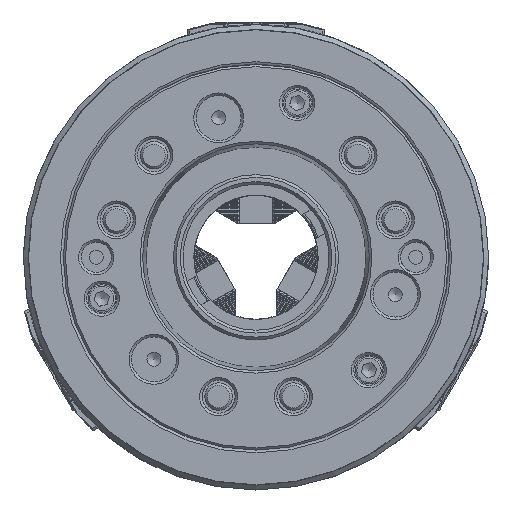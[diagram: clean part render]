
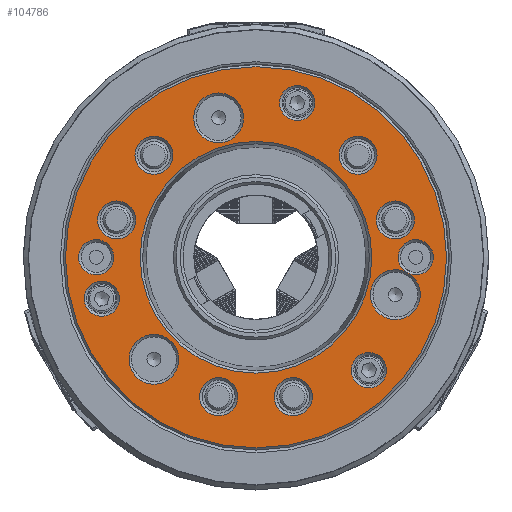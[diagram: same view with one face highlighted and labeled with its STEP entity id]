
A CAD part, front view. The second image highlights one B-rep face of the part: STEP entity #104786.
In plain terms, the highlighted planar face has unit normal (0, -1, 0).
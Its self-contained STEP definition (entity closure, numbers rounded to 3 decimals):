
#29584=PLANE('',#112609);
#30059=FACE_BOUND('',#40533,.T.);
#30060=FACE_BOUND('',#40534,.T.);
#30061=FACE_BOUND('',#40535,.T.);
#30062=FACE_BOUND('',#40536,.T.);
#30063=FACE_BOUND('',#40537,.T.);
#30064=FACE_BOUND('',#40538,.T.);
#30065=FACE_BOUND('',#40539,.T.);
#30066=FACE_BOUND('',#40540,.T.);
#30067=FACE_BOUND('',#40541,.T.);
#30068=FACE_BOUND('',#40542,.T.);
#30069=FACE_BOUND('',#40543,.T.);
#30070=FACE_BOUND('',#40544,.T.);
#30071=FACE_BOUND('',#40545,.T.);
#30072=FACE_BOUND('',#40546,.T.);
#35037=FACE_OUTER_BOUND('',#40532,.T.);
#40532=EDGE_LOOP('',(#98046));
#40533=EDGE_LOOP('',(#98047));
#40534=EDGE_LOOP('',(#98048));
#40535=EDGE_LOOP('',(#98049));
#40536=EDGE_LOOP('',(#98050));
#40537=EDGE_LOOP('',(#98051));
#40538=EDGE_LOOP('',(#98052));
#40539=EDGE_LOOP('',(#98053));
#40540=EDGE_LOOP('',(#98054));
#40541=EDGE_LOOP('',(#98055));
#40542=EDGE_LOOP('',(#98056,#98057));
#40543=EDGE_LOOP('',(#98058));
#40544=EDGE_LOOP('',(#98059));
#40545=EDGE_LOOP('',(#98060));
#40546=EDGE_LOOP('',(#98061));
#41638=CIRCLE('',#112503,6.4);
#41670=CIRCLE('',#112558,42.067);
#41681=CIRCLE('',#112580,69.2);
#41683=CIRCLE('',#112583,6.4);
#41684=CIRCLE('',#112585,9.05);
#41685=CIRCLE('',#112587,9.05);
#41686=CIRCLE('',#112589,6.9);
#41687=CIRCLE('',#112591,6.9);
#41688=CIRCLE('',#112593,6.9);
#41689=CIRCLE('',#112595,6.9);
#41690=CIRCLE('',#112597,6.9);
#41691=CIRCLE('',#112599,6.9);
#41692=CIRCLE('',#112601,6.4);
#41693=CIRCLE('',#112603,6.4);
#41694=CIRCLE('',#112605,6.4);
#41695=CIRCLE('',#112607,9.05);
#51723=VERTEX_POINT('',#176921);
#51724=VERTEX_POINT('',#176922);
#51755=VERTEX_POINT('',#177008);
#51760=VERTEX_POINT('',#177035);
#51762=VERTEX_POINT('',#177040);
#51763=VERTEX_POINT('',#177043);
#51764=VERTEX_POINT('',#177046);
#51765=VERTEX_POINT('',#177049);
#51766=VERTEX_POINT('',#177052);
#51767=VERTEX_POINT('',#177055);
#51768=VERTEX_POINT('',#177058);
#51769=VERTEX_POINT('',#177061);
#51770=VERTEX_POINT('',#177064);
#51771=VERTEX_POINT('',#177067);
#51772=VERTEX_POINT('',#177070);
#51773=VERTEX_POINT('',#177073);
#67200=EDGE_CURVE('',#51723,#51724,#41638,.T.);
#67232=EDGE_CURVE('',#51755,#51755,#41670,.T.);
#67243=EDGE_CURVE('',#51760,#51760,#41681,.T.);
#67245=EDGE_CURVE('',#51762,#51762,#41683,.T.);
#67246=EDGE_CURVE('',#51763,#51763,#41684,.T.);
#67247=EDGE_CURVE('',#51764,#51764,#41685,.T.);
#67248=EDGE_CURVE('',#51765,#51765,#41686,.T.);
#67249=EDGE_CURVE('',#51766,#51766,#41687,.T.);
#67250=EDGE_CURVE('',#51767,#51767,#41688,.T.);
#67251=EDGE_CURVE('',#51768,#51768,#41689,.T.);
#67252=EDGE_CURVE('',#51769,#51769,#41690,.T.);
#67253=EDGE_CURVE('',#51770,#51770,#41691,.T.);
#67254=EDGE_CURVE('',#51771,#51771,#41692,.T.);
#67255=EDGE_CURVE('',#51772,#51772,#41693,.T.);
#67256=EDGE_CURVE('',#51773,#51773,#41694,.T.);
#67257=EDGE_CURVE('',#51724,#51723,#41695,.T.);
#98046=ORIENTED_EDGE('',*,*,#67243,.T.);
#98047=ORIENTED_EDGE('',*,*,#67256,.T.);
#98048=ORIENTED_EDGE('',*,*,#67255,.T.);
#98049=ORIENTED_EDGE('',*,*,#67254,.T.);
#98050=ORIENTED_EDGE('',*,*,#67253,.T.);
#98051=ORIENTED_EDGE('',*,*,#67252,.T.);
#98052=ORIENTED_EDGE('',*,*,#67251,.T.);
#98053=ORIENTED_EDGE('',*,*,#67250,.T.);
#98054=ORIENTED_EDGE('',*,*,#67249,.T.);
#98055=ORIENTED_EDGE('',*,*,#67248,.T.);
#98056=ORIENTED_EDGE('',*,*,#67257,.T.);
#98057=ORIENTED_EDGE('',*,*,#67200,.T.);
#98058=ORIENTED_EDGE('',*,*,#67247,.T.);
#98059=ORIENTED_EDGE('',*,*,#67246,.T.);
#98060=ORIENTED_EDGE('',*,*,#67245,.T.);
#98061=ORIENTED_EDGE('',*,*,#67232,.T.);
#104786=ADVANCED_FACE('',(#35037,#30059,#30060,#30061,#30062,#30063,#30064,
#30065,#30066,#30067,#30068,#30069,#30070,#30071,#30072),#29584,.T.);
#112503=AXIS2_PLACEMENT_3D('',#176923,#139077,#139078);
#112558=AXIS2_PLACEMENT_3D('',#177009,#139187,#139188);
#112580=AXIS2_PLACEMENT_3D('',#177036,#139231,#139232);
#112583=AXIS2_PLACEMENT_3D('',#177041,#139237,#139238);
#112585=AXIS2_PLACEMENT_3D('',#177044,#139241,#139242);
#112587=AXIS2_PLACEMENT_3D('',#177047,#139245,#139246);
#112589=AXIS2_PLACEMENT_3D('',#177050,#139249,#139250);
#112591=AXIS2_PLACEMENT_3D('',#177053,#139253,#139254);
#112593=AXIS2_PLACEMENT_3D('',#177056,#139257,#139258);
#112595=AXIS2_PLACEMENT_3D('',#177059,#139261,#139262);
#112597=AXIS2_PLACEMENT_3D('',#177062,#139265,#139266);
#112599=AXIS2_PLACEMENT_3D('',#177065,#139269,#139270);
#112601=AXIS2_PLACEMENT_3D('',#177068,#139273,#139274);
#112603=AXIS2_PLACEMENT_3D('',#177071,#139277,#139278);
#112605=AXIS2_PLACEMENT_3D('',#177074,#139281,#139282);
#112607=AXIS2_PLACEMENT_3D('',#177076,#139285,#139286);
#112609=AXIS2_PLACEMENT_3D('',#177078,#139289,#139290);
#139077=DIRECTION('center_axis',(0.,1.,0.));
#139078=DIRECTION('ref_axis',(0.,0.,
1.));
#139187=DIRECTION('center_axis',(0.,1.,0.));
#139188=DIRECTION('ref_axis',(0.,0.,
-1.));
#139231=DIRECTION('center_axis',(0.,-1.,0.));
#139232=DIRECTION('ref_axis',(0.,0.,
-1.));
#139237=DIRECTION('center_axis',(0.,1.,0.));
#139238=DIRECTION('ref_axis',(0.,0.,
-1.));
#139241=DIRECTION('center_axis',(0.,1.,0.));
#139242=DIRECTION('ref_axis',(0.,0.,
-1.));
#139245=DIRECTION('center_axis',(0.,1.,0.));
#139246=DIRECTION('ref_axis',(-0.866,0.,
0.5));
#139249=DIRECTION('center_axis',(0.,1.,0.));
#139250=DIRECTION('ref_axis',(0.,0.,
-1.));
#139253=DIRECTION('center_axis',(0.,1.,0.));
#139254=DIRECTION('ref_axis',(0.,0.,
-1.));
#139257=DIRECTION('center_axis',(0.,1.,0.));
#139258=DIRECTION('ref_axis',(-0.866,0.,
0.5));
#139261=DIRECTION('center_axis',(0.,1.,0.));
#139262=DIRECTION('ref_axis',(-0.866,0.,
0.5));
#139265=DIRECTION('center_axis',(0.,1.,0.));
#139266=DIRECTION('ref_axis',(0.866,0.,0.5));
#139269=DIRECTION('center_axis',(0.,1.,0.));
#139270=DIRECTION('ref_axis',(0.866,0.,0.5));
#139273=DIRECTION('center_axis',(0.,1.,0.));
#139274=DIRECTION('ref_axis',(0.,0.,
-1.));
#139277=DIRECTION('center_axis',(0.,1.,0.));
#139278=DIRECTION('ref_axis',(-0.866,0.,
0.5));
#139281=DIRECTION('center_axis',(0.,1.,0.));
#139282=DIRECTION('ref_axis',(0.866,0.,0.5));
#139285=DIRECTION('center_axis',(0.,1.,0.));
#139286=DIRECTION('ref_axis',(0.866,0.,0.5));
#139289=DIRECTION('center_axis',(0.,-1.,0.));
#139290=DIRECTION('ref_axis',(1.,0.,0.));
#176921=CARTESIAN_POINT('',(54.736,-10.,-5.505));
#176922=CARTESIAN_POINT('',(55.147,-10.,-5.729));
#176923=CARTESIAN_POINT('Origin',(58.,-10.,0.));
#177008=CARTESIAN_POINT('',(0.,-10.,42.067));
#177009=CARTESIAN_POINT('Origin',(0.,-10.,0.));
#177035=CARTESIAN_POINT('',(0.,-10.,69.2));
#177036=CARTESIAN_POINT('Origin',(0.,-10.,0.));
#177040=CARTESIAN_POINT('',(-58.,-10.,6.4));
#177041=CARTESIAN_POINT('Origin',(-58.,-10.,0.));
#177043=CARTESIAN_POINT('',(-37.052,-10.,-28.002));
#177044=CARTESIAN_POINT('Origin',(-37.052,-10.,-37.052));
#177046=CARTESIAN_POINT('',(-5.725,-10.,46.09));
#177047=CARTESIAN_POINT('Origin',(-13.562,-10.,50.615));
#177049=CARTESIAN_POINT('',(-13.562,-10.,-43.715));
#177050=CARTESIAN_POINT('Origin',(-13.562,-10.,-50.615));
#177052=CARTESIAN_POINT('',(13.562,-10.,-43.715));
#177053=CARTESIAN_POINT('Origin',(13.562,-10.,-50.615));
#177055=CARTESIAN_POINT('',(-31.077,-10.,33.602));
#177056=CARTESIAN_POINT('Origin',(-37.052,-10.,37.052));
#177058=CARTESIAN_POINT('',(-44.639,-10.,10.112));
#177059=CARTESIAN_POINT('Origin',(-50.615,-10.,13.562));
#177061=CARTESIAN_POINT('',(44.639,-10.,10.112));
#177062=CARTESIAN_POINT('Origin',(50.615,-10.,13.562));
#177064=CARTESIAN_POINT('',(31.077,-10.,33.602));
#177065=CARTESIAN_POINT('Origin',(37.052,-10.,37.052));
#177067=CARTESIAN_POINT('',(-56.024,-10.,-8.612));
#177068=CARTESIAN_POINT('Origin',(-56.024,-10.,-15.012));
#177070=CARTESIAN_POINT('',(20.554,-10.,52.824));
#177071=CARTESIAN_POINT('Origin',(15.012,-10.,56.024));
#177073=CARTESIAN_POINT('',(35.47,-10.,-44.212));
#177074=CARTESIAN_POINT('Origin',(41.012,-10.,-41.012));
#177076=CARTESIAN_POINT('Origin',(50.615,-10.,-13.562));
#177078=CARTESIAN_POINT('Origin',(0.,-10.,70.));
